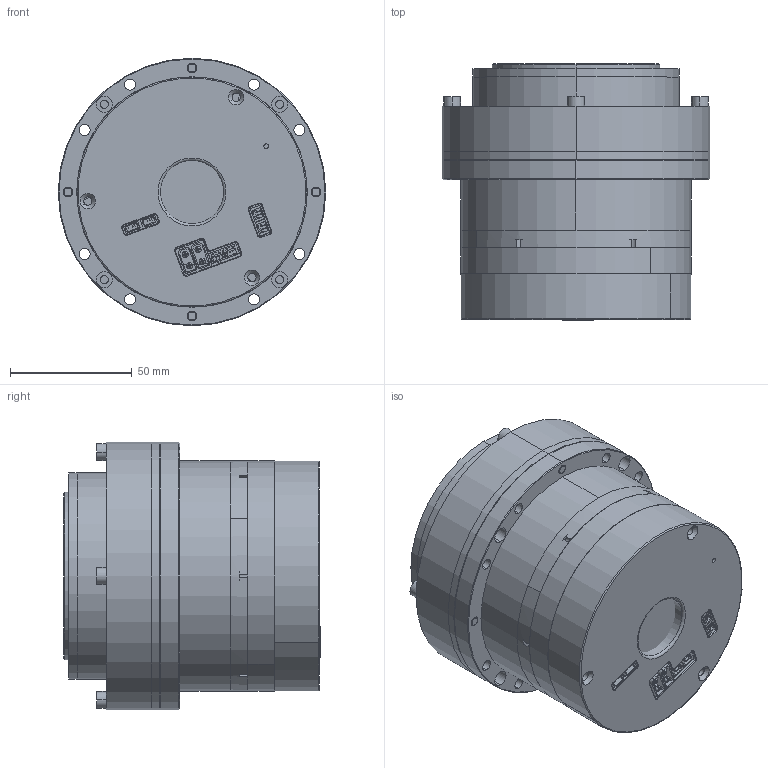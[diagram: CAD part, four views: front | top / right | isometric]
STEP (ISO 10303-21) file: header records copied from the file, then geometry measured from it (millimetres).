
FILE_DESCRIPTION (( 'STEP AP203' ), '1' );
FILE_NAME ('1MT.055.026（RH-25-100-E-B 一体化谐波减速模组-双编+抱闸+ECAT）.STEP', '2024-10-30T03:54:26', ( '' ), ( '' ), 'SwSTEP 2.0', 'SolidWorks 2020', '' );
FILE_SCHEMA (( 'CONFIG_CONTROL_DESIGN' ));
Length unit declared in the file: millimetre
Products named in the file (1): 1MT.055.026（RH-25-100-E-B 一体化谐波减速模组-双编+抱闸+ECAT）
Bounding box: 110 x 105.54 x 110 mm (x, y, z)
Surface area: 89842.8 mm2 (no closed solid volume)
Topology: 0 solids, 61 shells, 566 faces, 2757 edges, 2247 vertices
Faces by surface type: plane 310, cylinder 201, cone 33, bspline 16, torus 6
Entity records: 28589 total; most frequent: CARTESIAN_POINT 6449, DIRECTION 4706, ORIENTED_EDGE 3712, EDGE_CURVE 2757, VERTEX_POINT 2247, VECTOR 1634, LINE 1634, AXIS2_PLACEMENT_3D 1536
